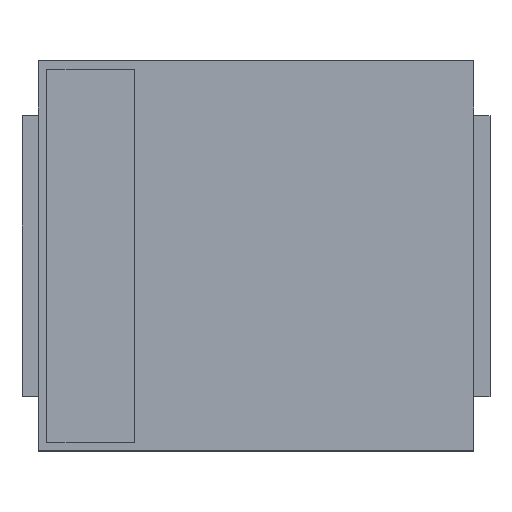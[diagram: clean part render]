
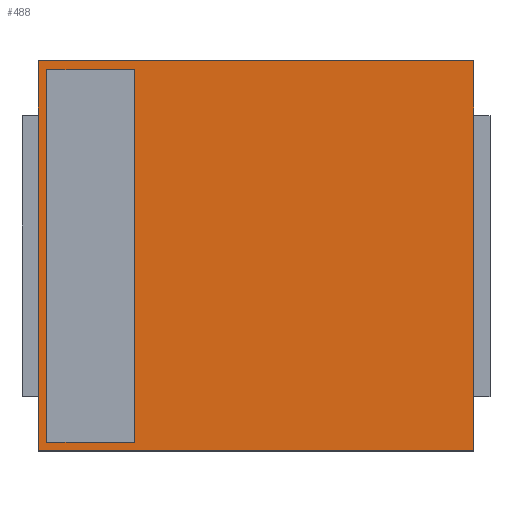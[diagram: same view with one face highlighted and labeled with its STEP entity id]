
A CAD part, top view. The second image highlights one B-rep face of the part: STEP entity #488.
In plain terms, the highlighted planar face has unit normal (0, 0, 1).
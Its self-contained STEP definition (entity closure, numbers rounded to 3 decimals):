
#488=ADVANCED_FACE('',(#494),#489,.T.);
#489=PLANE('',#490);
#490=AXIS2_PLACEMENT_3D('',#491,#492,#493);
#491=CARTESIAN_POINT('',(-2.127,-1.905,2.413));
#492=DIRECTION('',(0.0,0.0,1.0));
#493=DIRECTION('',(0.,1.,0.));
#494=FACE_OUTER_BOUND('',#495,.T.);
#495=EDGE_LOOP('',(#496,#506,#516,#526));
#499=CARTESIAN_POINT('',(2.127,-1.905,2.413));
#498=VERTEX_POINT('',#499);
#501=CARTESIAN_POINT('',(-2.127,-1.905,2.413));
#500=VERTEX_POINT('',#501);
#497=EDGE_CURVE('',#498,#500,#502,.T.);
#502=LINE('',#499,#504);
#504=VECTOR('',#505,4.255);
#505=DIRECTION('',(-1.0,0.0,0.0));
#496=ORIENTED_EDGE('',*,*,#497,.F.);
#509=CARTESIAN_POINT('',(2.127,1.905,2.413));
#508=VERTEX_POINT('',#509);
#507=EDGE_CURVE('',#508,#498,#512,.T.);
#512=LINE('',#509,#514);
#514=VECTOR('',#515,3.81);
#515=DIRECTION('',(0.0,-1.0,0.0));
#506=ORIENTED_EDGE('',*,*,#507,.F.);
#519=CARTESIAN_POINT('',(-2.127,1.905,2.413));
#518=VERTEX_POINT('',#519);
#517=EDGE_CURVE('',#518,#508,#522,.T.);
#522=LINE('',#519,#524);
#524=VECTOR('',#525,4.255);
#525=DIRECTION('',(1.0,0.0,0.0));
#516=ORIENTED_EDGE('',*,*,#517,.F.);
#527=EDGE_CURVE('',#500,#518,#532,.T.);
#532=LINE('',#501,#534);
#534=VECTOR('',#535,3.81);
#535=DIRECTION('',(0.0,1.0,0.0));
#526=ORIENTED_EDGE('',*,*,#527,.F.);
